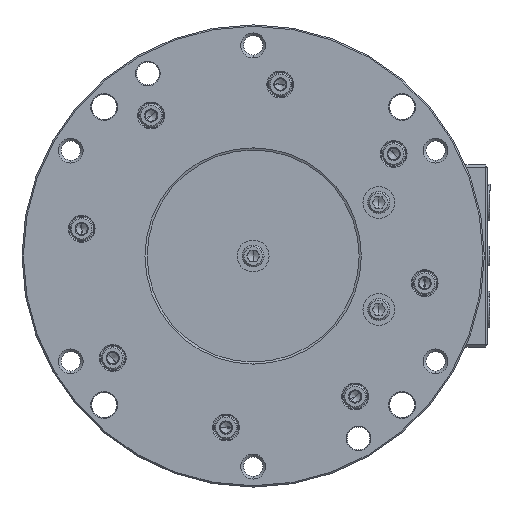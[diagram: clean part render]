
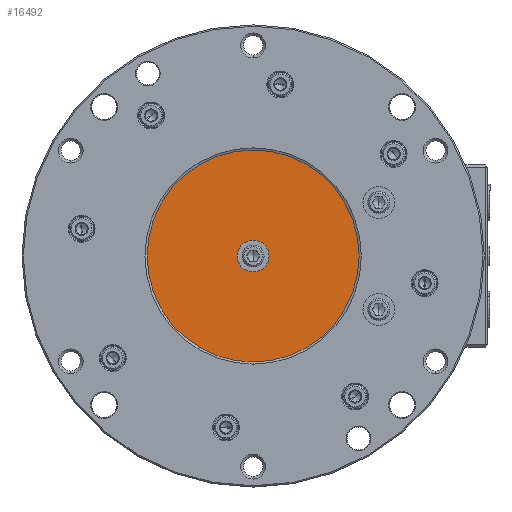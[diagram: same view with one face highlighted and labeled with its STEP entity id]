
A CAD part, left-side view. The second image highlights one B-rep face of the part: STEP entity #16492.
In plain terms, the highlighted planar face has unit normal (-1, 0, 0).
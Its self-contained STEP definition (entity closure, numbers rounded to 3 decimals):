
#60 = ORIENTED_EDGE ( 'NONE', *, *, #40852, .F. ) ;
#552 = DIRECTION ( 'NONE',  ( 0., 0., -1. ) ) ;
#2131 = FACE_OUTER_BOUND ( 'NONE', #47171, .T. ) ;
#2716 = DIRECTION ( 'NONE',  ( 1., 0., 0. ) ) ;
#4531 = CARTESIAN_POINT ( 'NONE',  ( -117.5, 0., 0. ) ) ;
#5562 = EDGE_LOOP ( 'NONE', ( #19229, #60 ) ) ;
#9892 = DIRECTION ( 'NONE',  ( 0., 0., 1. ) ) ;
#10125 = DIRECTION ( 'NONE',  ( -1., 0., 0. ) ) ;
#10547 = VERTEX_POINT ( 'NONE', #20992 ) ;
#11138 = CARTESIAN_POINT ( 'NONE',  ( -117.5, 46.54, 0. ) ) ;
#12726 = EDGE_CURVE ( 'NONE', #56573, #13404, #42460, .T. ) ;
#12777 = EDGE_CURVE ( 'NONE', #13724, #10547, #14058, .T. ) ;
#13404 = VERTEX_POINT ( 'NONE', #39126 ) ;
#13724 = VERTEX_POINT ( 'NONE', #39250 ) ;
#14058 = CIRCLE ( 'NONE', #66423, 46.54 ) ;
#14295 = AXIS2_PLACEMENT_3D ( 'NONE', #11138, #2716, #552 ) ;
#14325 = CARTESIAN_POINT ( 'NONE',  ( -117.5, 0., 7. ) ) ;
#16492 = ADVANCED_FACE ( 'NONE', ( #28820, #2131 ), #18322, .F. ) ;
#18322 = PLANE ( 'NONE',  #14295 ) ;
#19229 = ORIENTED_EDGE ( 'NONE', *, *, #12726, .F. ) ;
#20992 = CARTESIAN_POINT ( 'NONE',  ( -117.5, 0., -46.54 ) ) ;
#24606 = DIRECTION ( 'NONE',  ( -1., 0., 0. ) ) ;
#25963 = CARTESIAN_POINT ( 'NONE',  ( -117.5, 0., 0. ) ) ;
#28020 = DIRECTION ( 'NONE',  ( -1., 0., 0. ) ) ;
#28820 = FACE_BOUND ( 'NONE', #5562, .T. ) ;
#39126 = CARTESIAN_POINT ( 'NONE',  ( -117.5, 0., -7. ) ) ;
#39250 = CARTESIAN_POINT ( 'NONE',  ( -117.5, 0., 46.54 ) ) ;
#40852 = EDGE_CURVE ( 'NONE', #13404, #56573, #48321, .T. ) ;
#41841 = DIRECTION ( 'NONE',  ( -1., 0., 0. ) ) ;
#42460 = CIRCLE ( 'NONE', #52036, 7. ) ;
#44068 = DIRECTION ( 'NONE',  ( 0., 0., 1. ) ) ;
#47171 = EDGE_LOOP ( 'NONE', ( #58272, #55922 ) ) ;
#48321 = CIRCLE ( 'NONE', #62423, 7. ) ;
#49080 = CIRCLE ( 'NONE', #60697, 46.54 ) ;
#52036 = AXIS2_PLACEMENT_3D ( 'NONE', #25963, #10125, #44068 ) ;
#52149 = EDGE_CURVE ( 'NONE', #10547, #13724, #49080, .T. ) ;
#55710 = DIRECTION ( 'NONE',  ( 0., 0., 1. ) ) ;
#55922 = ORIENTED_EDGE ( 'NONE', *, *, #52149, .T. ) ;
#56573 = VERTEX_POINT ( 'NONE', #14325 ) ;
#58272 = ORIENTED_EDGE ( 'NONE', *, *, #12777, .T. ) ;
#59933 = CARTESIAN_POINT ( 'NONE',  ( -117.5, 0., 0. ) ) ;
#60697 = AXIS2_PLACEMENT_3D ( 'NONE', #4531, #41841, #9892 ) ;
#62423 = AXIS2_PLACEMENT_3D ( 'NONE', #59933, #28020, #65370 ) ;
#65366 = CARTESIAN_POINT ( 'NONE',  ( -117.5, 0., 0. ) ) ;
#65370 = DIRECTION ( 'NONE',  ( 0., 0., 1. ) ) ;
#66423 = AXIS2_PLACEMENT_3D ( 'NONE', #65366, #24606, #55710 ) ;
